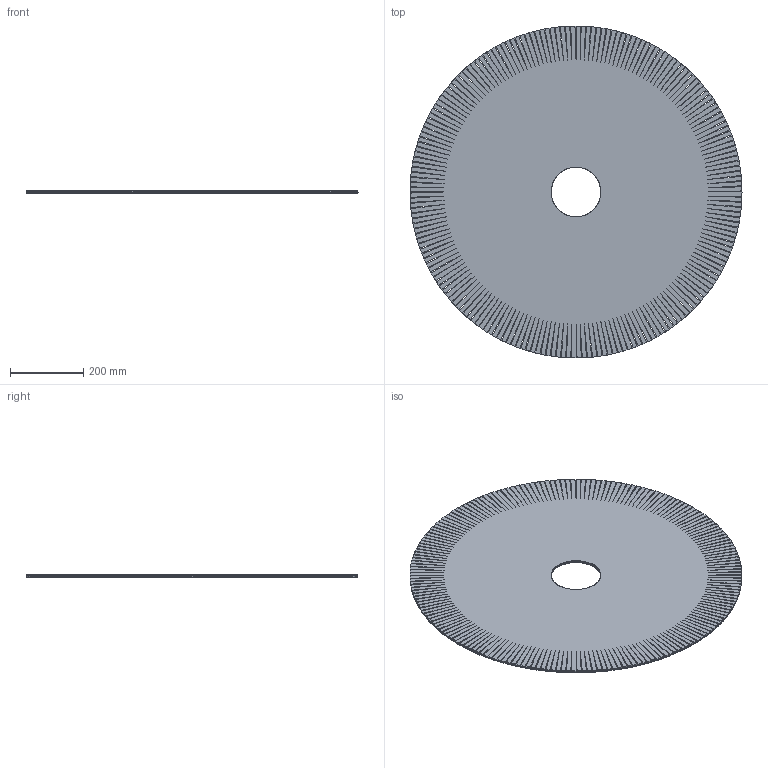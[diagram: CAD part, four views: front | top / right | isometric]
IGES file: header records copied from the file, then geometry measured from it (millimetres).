
Start section: SolidWorks IGES file using analytic representation for surfaces
Global section: file name: \\ARNOLD\compartida\Nueva Coleccion Septiembre 2026\WIND_1128\WIND 900\3D\WIND_900.IGS; native system: SolidWorks 2023; preprocessor: SolidWorks 2023; author: adrian; date: 260827.151830; units: millimetre
Bounding box: 905 x 904.98 x 7 mm (x, y, z)
Surface area: 1334559.6 mm2 (no closed solid volume)
Topology: 0 solids, 0 shells, 1010 faces, 6032 edges, 6032 vertices
Faces by surface type: bspline 1010
